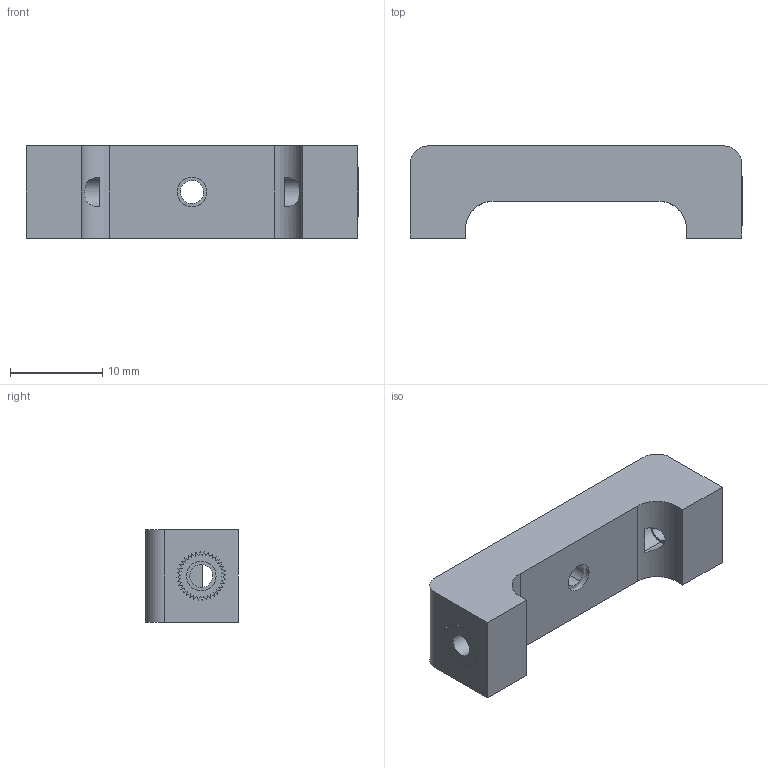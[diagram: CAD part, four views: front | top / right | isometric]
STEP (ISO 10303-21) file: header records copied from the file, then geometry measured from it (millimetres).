
FILE_DESCRIPTION (( 'STEP AP214' ), '1' );
FILE_NAME ('U Joint.STEP', '2024-06-26T07:43:56', ( '' ), ( '' ), 'SwSTEP 2.0', 'SolidWorks 2023', '' );
FILE_SCHEMA (( 'AUTOMOTIVE_DESIGN' ));
Length unit declared in the file: millimetre
Products named in the file (3): U Joint; U Joint PLA; M3 Insert
Assembly tree (4 placements, depth 2):
  U Joint
    U Joint PLA
    M3 Insert  x3
Bounding box: 36.02 x 10.01 x 10 mm (x, y, z)
Volume: 2702.7 mm3; surface area: 2324.5 mm2
Topology: 4 solids, 4 shells, 904 faces, 2244 edges, 1348 vertices
Faces by surface type: plane 666, cylinder 238
Entity records: 9424 total; most frequent: DIRECTION 1674, CARTESIAN_POINT 1645, ORIENTED_EDGE 1576, EDGE_CURVE 788, AXIS2_PLACEMENT_3D 565, VECTOR 544, LINE 544, VERTEX_POINT 476
